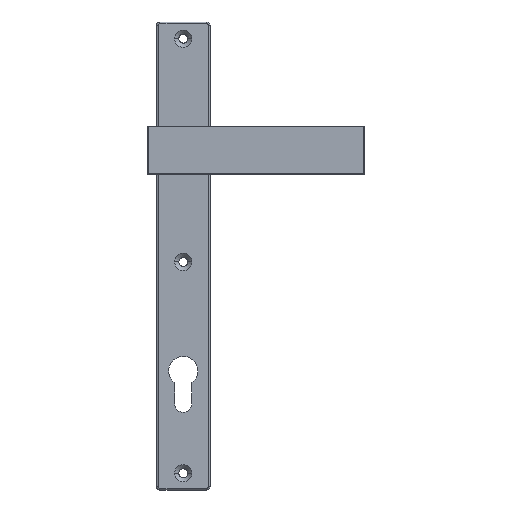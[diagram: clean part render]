
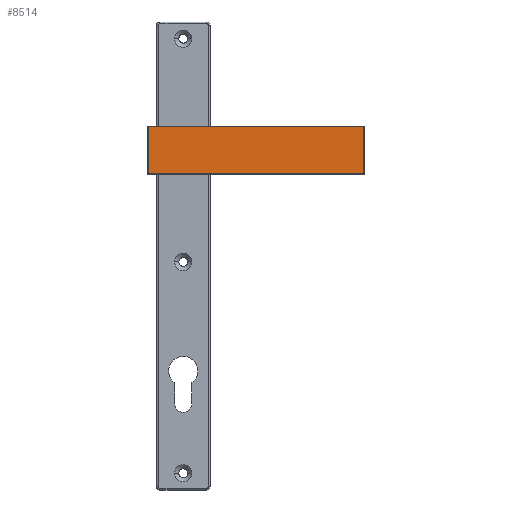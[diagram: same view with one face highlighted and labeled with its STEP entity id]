
A CAD part, top view. The second image highlights one B-rep face of the part: STEP entity #8514.
In plain terms, the highlighted planar face has unit normal (0, 0, 1) as drawn and (-1, 0, 0) by its records, which use the part's own axes.
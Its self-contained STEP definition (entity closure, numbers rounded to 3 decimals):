
#108 = CARTESIAN_POINT ( 'NONE',  ( -5., 20.5, -14. ) ) ;
#240 = ORIENTED_EDGE ( 'NONE', *, *, #10284, .T. ) ;
#299 = DIRECTION ( 'NONE',  ( 0., 0., -1. ) ) ;
#412 = DIRECTION ( 'NONE',  ( 0., -1., 0. ) ) ;
#603 = AXIS2_PLACEMENT_3D ( 'NONE', #6035, #5132, #412 ) ;
#737 = EDGE_CURVE ( 'NONE', #6342, #3771, #3416, .T. ) ;
#743 = EDGE_CURVE ( 'NONE', #4939, #9963, #1632, .T. ) ;
#864 = DIRECTION ( 'NONE',  ( -1., 0., 0. ) ) ;
#954 = DIRECTION ( 'NONE',  ( 0., 0., 1. ) ) ;
#961 = CARTESIAN_POINT ( 'NONE',  ( -5., -108., -13.5 ) ) ;
#1081 = CARTESIAN_POINT ( 'NONE',  ( -5., 20.5, 14. ) ) ;
#1082 = ORIENTED_EDGE ( 'NONE', *, *, #8516, .T. ) ;
#1247 = CARTESIAN_POINT ( 'NONE',  ( -5., -107.5, 14. ) ) ;
#1270 = VERTEX_POINT ( 'NONE', #8188 ) ;
#1558 = CARTESIAN_POINT ( 'NONE',  ( -5., -107.5, -14. ) ) ;
#1632 = CIRCLE ( 'NONE', #10177, 0.5 ) ;
#1651 = CARTESIAN_POINT ( 'NONE',  ( -5., 20.5, 13.5 ) ) ;
#1777 = ORIENTED_EDGE ( 'NONE', *, *, #7669, .T. ) ;
#1851 = VERTEX_POINT ( 'NONE', #5286 ) ;
#2889 = PLANE ( 'NONE',  #603 ) ;
#2983 = VECTOR ( 'NONE', #4929, 1000. ) ;
#3031 = CARTESIAN_POINT ( 'NONE',  ( -5., 21., -13.5 ) ) ;
#3260 = CARTESIAN_POINT ( 'NONE',  ( -5., -107.5, 13.5 ) ) ;
#3416 = LINE ( 'NONE', #4097, #2983 ) ;
#3419 = CARTESIAN_POINT ( 'NONE',  ( -5., -108., 13.5 ) ) ;
#3528 = VECTOR ( 'NONE', #9222, 1000. ) ;
#3652 = VERTEX_POINT ( 'NONE', #3031 ) ;
#3771 = VERTEX_POINT ( 'NONE', #1558 ) ;
#3792 = VECTOR ( 'NONE', #299, 1000. ) ;
#4003 = CARTESIAN_POINT ( 'NONE',  ( -5., 20.5, -13.5 ) ) ;
#4049 = DIRECTION ( 'NONE',  ( 0., -1., 0. ) ) ;
#4097 = CARTESIAN_POINT ( 'NONE',  ( -5., -107.5, -14. ) ) ;
#4130 = ORIENTED_EDGE ( 'NONE', *, *, #6077, .T. ) ;
#4320 = DIRECTION ( 'NONE',  ( 0., -1., 0. ) ) ;
#4848 = DIRECTION ( 'NONE',  ( -1., 0., 0. ) ) ;
#4929 = DIRECTION ( 'NONE',  ( 0., -1., 0. ) ) ;
#4939 = VERTEX_POINT ( 'NONE', #8947 ) ;
#5132 = DIRECTION ( 'NONE',  ( -1., 0., 0. ) ) ;
#5249 = LINE ( 'NONE', #7495, #3792 ) ;
#5286 = CARTESIAN_POINT ( 'NONE',  ( -5., 21., 13.5 ) ) ;
#6035 = CARTESIAN_POINT ( 'NONE',  ( -5., 0., 0. ) ) ;
#6077 = EDGE_CURVE ( 'NONE', #1270, #1851, #7057, .T. ) ;
#6342 = VERTEX_POINT ( 'NONE', #108 ) ;
#6441 = EDGE_CURVE ( 'NONE', #7770, #4939, #6579, .T. ) ;
#6579 = LINE ( 'NONE', #3419, #8744 ) ;
#6686 = CARTESIAN_POINT ( 'NONE',  ( -5., -107.5, -13.5 ) ) ;
#6871 = FACE_OUTER_BOUND ( 'NONE', #9143, .T. ) ;
#7057 = CIRCLE ( 'NONE', #7736, 0.5 ) ;
#7285 = CIRCLE ( 'NONE', #8644, 0.5 ) ;
#7297 = DIRECTION ( 'NONE',  ( -1., 0., 0. ) ) ;
#7495 = CARTESIAN_POINT ( 'NONE',  ( -5., 21., -13.5 ) ) ;
#7669 = EDGE_CURVE ( 'NONE', #3652, #6342, #7285, .T. ) ;
#7736 = AXIS2_PLACEMENT_3D ( 'NONE', #1651, #4848, #8059 ) ;
#7770 = VERTEX_POINT ( 'NONE', #961 ) ;
#7911 = ORIENTED_EDGE ( 'NONE', *, *, #9835, .T. ) ;
#7992 = DIRECTION ( 'NONE',  ( 0., -1., 0. ) ) ;
#8059 = DIRECTION ( 'NONE',  ( 0., -1., 0. ) ) ;
#8188 = CARTESIAN_POINT ( 'NONE',  ( -5., 20.5, 14. ) ) ;
#8203 = ORIENTED_EDGE ( 'NONE', *, *, #743, .T. ) ;
#8223 = ORIENTED_EDGE ( 'NONE', *, *, #6441, .T. ) ;
#8405 = AXIS2_PLACEMENT_3D ( 'NONE', #6686, #10033, #4320 ) ;
#8514 = ADVANCED_FACE ( 'NONE', ( #6871 ), #2889, .T. ) ;
#8516 = EDGE_CURVE ( 'NONE', #1851, #3652, #5249, .T. ) ;
#8644 = AXIS2_PLACEMENT_3D ( 'NONE', #4003, #864, #7992 ) ;
#8744 = VECTOR ( 'NONE', #954, 1000. ) ;
#8947 = CARTESIAN_POINT ( 'NONE',  ( -5., -108., 13.5 ) ) ;
#9079 = CIRCLE ( 'NONE', #8405, 0.5 ) ;
#9143 = EDGE_LOOP ( 'NONE', ( #8223, #8203, #7911, #4130, #1082, #1777, #10239, #240 ) ) ;
#9222 = DIRECTION ( 'NONE',  ( 0., 1., 0. ) ) ;
#9835 = EDGE_CURVE ( 'NONE', #9963, #1270, #9892, .T. ) ;
#9892 = LINE ( 'NONE', #1081, #3528 ) ;
#9963 = VERTEX_POINT ( 'NONE', #1247 ) ;
#10033 = DIRECTION ( 'NONE',  ( -1., 0., 0. ) ) ;
#10177 = AXIS2_PLACEMENT_3D ( 'NONE', #3260, #7297, #4049 ) ;
#10239 = ORIENTED_EDGE ( 'NONE', *, *, #737, .T. ) ;
#10284 = EDGE_CURVE ( 'NONE', #3771, #7770, #9079, .T. ) ;
